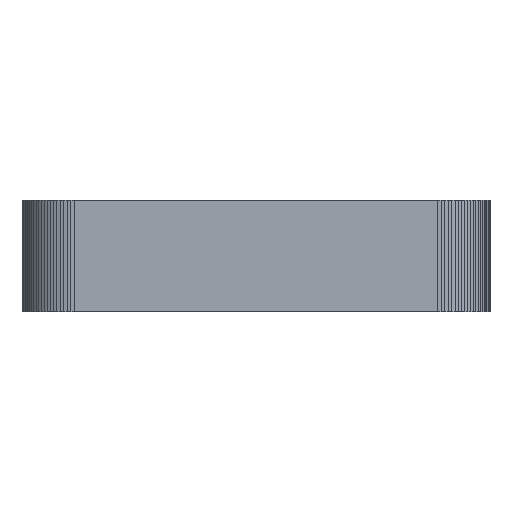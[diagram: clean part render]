
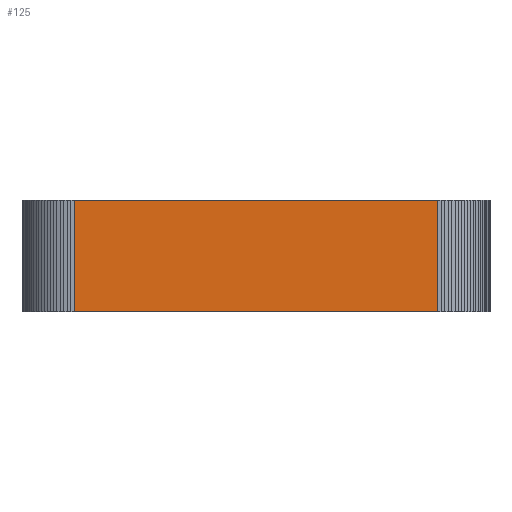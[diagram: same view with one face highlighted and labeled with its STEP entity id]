
A CAD part, front view. The second image highlights one B-rep face of the part: STEP entity #125.
In plain terms, the highlighted free-form (B-spline) face has degree [1, 1] with [2, 2] control points.
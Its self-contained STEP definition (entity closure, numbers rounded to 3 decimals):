
#21 = EDGE_CURVE('',#22,#24,#26,.T.);
#22 = VERTEX_POINT('',#23);
#23 = CARTESIAN_POINT('',(2.,-101.75,0.));
#24 = VERTEX_POINT('',#25);
#25 = CARTESIAN_POINT('',(2.,-101.75,8.)
  );
#26 = SURFACE_CURVE('',#27,(#30,#41),.PCURVE_S1.);
#27 = B_SPLINE_CURVE_WITH_KNOTS('',1,(#28,#29),.UNSPECIFIED.,.F.,.F.,(2,
    2),(0.,314.961),.PIECEWISE_BEZIER_KNOTS.);
#28 = CARTESIAN_POINT('',(2.,-101.75,0.));
#29 = CARTESIAN_POINT('',(2.,-101.75,8.)
  );
#30 = PCURVE('',#31,#36);
#31 = B_SPLINE_SURFACE_WITH_KNOTS('',1,1,(
    (#32,#33)
    ,(#34,#35
    )),.UNSPECIFIED.,.F.,.F.,.F.,(2,2),(2,2),(0.,10.081),(
    -314.961,0.),.PIECEWISE_BEZIER_KNOTS.);
#32 = CARTESIAN_POINT('',(2.,-101.75,8.)
  );
#33 = CARTESIAN_POINT('',(2.,-101.75,0.));
#34 = CARTESIAN_POINT('',(1.744,-101.741,8.));
#35 = CARTESIAN_POINT('',(1.744,-101.741,0.));
#36 = DEFINITIONAL_REPRESENTATION('',(#37),#40);
#37 = B_SPLINE_CURVE_WITH_KNOTS('',1,(#38,#39),.UNSPECIFIED.,.F.,.F.,(2,
    2),(0.,314.961),.PIECEWISE_BEZIER_KNOTS.);
#38 = CARTESIAN_POINT('',(0.,0.));
#39 = CARTESIAN_POINT('',(0.,-314.961));
#40 = ( GEOMETRIC_REPRESENTATION_CONTEXT(2) 
PARAMETRIC_REPRESENTATION_CONTEXT() REPRESENTATION_CONTEXT('2D SPACE',''
  ) );
#41 = PCURVE('',#42,#47);
#42 = B_SPLINE_SURFACE_WITH_KNOTS('',1,1,(
    (#43,#44)
    ,(#45,#46
  )),.UNSPECIFIED.,.F.,.F.,.F.,(2,2),(2,2),(0.,1023.622),(-314.961
    ,0.),.PIECEWISE_BEZIER_KNOTS.);
#43 = CARTESIAN_POINT('',(28.,-101.75,8.)
  );
#44 = CARTESIAN_POINT('',(28.,-101.75,0.));
#45 = CARTESIAN_POINT('',(2.,-101.75,8.)
  );
#46 = CARTESIAN_POINT('',(2.,-101.75,0.));
#47 = DEFINITIONAL_REPRESENTATION('',(#48),#51);
#48 = B_SPLINE_CURVE_WITH_KNOTS('',1,(#49,#50),.UNSPECIFIED.,.F.,.F.,(2,
    2),(0.,314.961),.PIECEWISE_BEZIER_KNOTS.);
#49 = CARTESIAN_POINT('',(1023.622,0.));
#50 = CARTESIAN_POINT('',(1023.622,-314.961));
#51 = ( GEOMETRIC_REPRESENTATION_CONTEXT(2) 
PARAMETRIC_REPRESENTATION_CONTEXT() REPRESENTATION_CONTEXT('2D SPACE',''
  ) );
#67 = B_SPLINE_SURFACE_WITH_KNOTS('',1,1,(
    (#68,#69)
    ,(#70,#71
    )),.UNSPECIFIED.,.F.,.F.,.F.,(2,2),(2,2),(-659.449,659.449),(
    -2037.402,2037.402),.PIECEWISE_BEZIER_KNOTS.);
#68 = CARTESIAN_POINT('',(31.75,-101.75,8.)
  );
#69 = CARTESIAN_POINT('',(31.75,1.75,8.));
#70 = CARTESIAN_POINT('',(-1.75,-101.75,8.)
  );
#71 = CARTESIAN_POINT('',(-1.75,1.75,8.)
  );
#115 = B_SPLINE_SURFACE_WITH_KNOTS('',1,1,(
    (#116,#117)
    ,(#118,#119
    )),.UNSPECIFIED.,.F.,.F.,.F.,(2,2),(2,2),(-659.449,659.449),(
    -2037.402,2037.402),.PIECEWISE_BEZIER_KNOTS.);
#116 = CARTESIAN_POINT('',(31.75,-101.75,0.));
#117 = CARTESIAN_POINT('',(31.75,1.75,0.));
#118 = CARTESIAN_POINT('',(-1.75,-101.75,0.));
#119 = CARTESIAN_POINT('',(-1.75,1.75,0.));
#125 = ADVANCED_FACE('',(#126),#42,.T.);
#126 = FACE_BOUND('',#127,.T.);
#127 = EDGE_LOOP('',(#128,#155,#173,#174));
#128 = ORIENTED_EDGE('',*,*,#129,.T.);
#129 = EDGE_CURVE('',#130,#132,#134,.T.);
#130 = VERTEX_POINT('',#131);
#131 = CARTESIAN_POINT('',(28.,-101.75,0.));
#132 = VERTEX_POINT('',#133);
#133 = CARTESIAN_POINT('',(28.,-101.75,8.
    ));
#134 = SURFACE_CURVE('',#135,(#138,#144),.PCURVE_S1.);
#135 = B_SPLINE_CURVE_WITH_KNOTS('',1,(#136,#137),.UNSPECIFIED.,.F.,.F.,
  (2,2),(0.,314.961),.PIECEWISE_BEZIER_KNOTS.);
#136 = CARTESIAN_POINT('',(28.,-101.75,0.));
#137 = CARTESIAN_POINT('',(28.,-101.75,8.
    ));
#138 = PCURVE('',#42,#139);
#139 = DEFINITIONAL_REPRESENTATION('',(#140),#143);
#140 = B_SPLINE_CURVE_WITH_KNOTS('',1,(#141,#142),.UNSPECIFIED.,.F.,.F.,
  (2,2),(0.,314.961),.PIECEWISE_BEZIER_KNOTS.);
#141 = CARTESIAN_POINT('',(0.,0.));
#142 = CARTESIAN_POINT('',(0.,-314.961));
#143 = ( GEOMETRIC_REPRESENTATION_CONTEXT(2) 
PARAMETRIC_REPRESENTATION_CONTEXT() REPRESENTATION_CONTEXT('2D SPACE',''
  ) );
#144 = PCURVE('',#145,#150);
#145 = B_SPLINE_SURFACE_WITH_KNOTS('',1,1,(
    (#146,#147)
    ,(#148,#149
    )),.UNSPECIFIED.,.F.,.F.,.F.,(2,2),(2,2),(0.,10.081),(
    -314.961,0.),.PIECEWISE_BEZIER_KNOTS.);
#146 = CARTESIAN_POINT('',(28.256,-101.741,8.)
  );
#147 = CARTESIAN_POINT('',(28.256,-101.741,0.));
#148 = CARTESIAN_POINT('',(28.,-101.75,8.
    ));
#149 = CARTESIAN_POINT('',(28.,-101.75,0.));
#150 = DEFINITIONAL_REPRESENTATION('',(#151),#154);
#151 = B_SPLINE_CURVE_WITH_KNOTS('',1,(#152,#153),.UNSPECIFIED.,.F.,.F.,
  (2,2),(0.,314.961),.PIECEWISE_BEZIER_KNOTS.);
#152 = CARTESIAN_POINT('',(10.081,0.));
#153 = CARTESIAN_POINT('',(10.081,-314.961));
#154 = ( GEOMETRIC_REPRESENTATION_CONTEXT(2) 
PARAMETRIC_REPRESENTATION_CONTEXT() REPRESENTATION_CONTEXT('2D SPACE',''
  ) );
#155 = ORIENTED_EDGE('',*,*,#156,.T.);
#156 = EDGE_CURVE('',#132,#24,#157,.T.);
#157 = SURFACE_CURVE('',#158,(#161,#167),.PCURVE_S1.);
#158 = B_SPLINE_CURVE_WITH_KNOTS('',1,(#159,#160),.UNSPECIFIED.,.F.,.F.,
  (2,2),(0.,1023.622),.PIECEWISE_BEZIER_KNOTS.);
#159 = CARTESIAN_POINT('',(28.,-101.75,8.
    ));
#160 = CARTESIAN_POINT('',(2.,-101.75,8.)
  );
#161 = PCURVE('',#42,#162);
#162 = DEFINITIONAL_REPRESENTATION('',(#163),#166);
#163 = B_SPLINE_CURVE_WITH_KNOTS('',1,(#164,#165),.UNSPECIFIED.,.F.,.F.,
  (2,2),(0.,1023.622),.PIECEWISE_BEZIER_KNOTS.);
#164 = CARTESIAN_POINT('',(0.,-314.961));
#165 = CARTESIAN_POINT('',(1023.622,-314.961));
#166 = ( GEOMETRIC_REPRESENTATION_CONTEXT(2) 
PARAMETRIC_REPRESENTATION_CONTEXT() REPRESENTATION_CONTEXT('2D SPACE',''
  ) );
#167 = PCURVE('',#67,#168);
#168 = DEFINITIONAL_REPRESENTATION('',(#169),#172);
#169 = B_SPLINE_CURVE_WITH_KNOTS('',1,(#170,#171),.UNSPECIFIED.,.F.,.F.,
  (2,2),(0.,1023.622),.PIECEWISE_BEZIER_KNOTS.);
#170 = CARTESIAN_POINT('',(-511.811,-2037.402));
#171 = CARTESIAN_POINT('',(511.811,-2037.402));
#172 = ( GEOMETRIC_REPRESENTATION_CONTEXT(2) 
PARAMETRIC_REPRESENTATION_CONTEXT() REPRESENTATION_CONTEXT('2D SPACE',''
  ) );
#173 = ORIENTED_EDGE('',*,*,#21,.F.);
#174 = ORIENTED_EDGE('',*,*,#175,.F.);
#175 = EDGE_CURVE('',#130,#22,#176,.T.);
#176 = SURFACE_CURVE('',#177,(#180,#186),.PCURVE_S1.);
#177 = B_SPLINE_CURVE_WITH_KNOTS('',1,(#178,#179),.UNSPECIFIED.,.F.,.F.,
  (2,2),(0.,1023.622),.PIECEWISE_BEZIER_KNOTS.);
#178 = CARTESIAN_POINT('',(28.,-101.75,0.));
#179 = CARTESIAN_POINT('',(2.,-101.75,0.));
#180 = PCURVE('',#42,#181);
#181 = DEFINITIONAL_REPRESENTATION('',(#182),#185);
#182 = B_SPLINE_CURVE_WITH_KNOTS('',1,(#183,#184),.UNSPECIFIED.,.F.,.F.,
  (2,2),(0.,1023.622),.PIECEWISE_BEZIER_KNOTS.);
#183 = CARTESIAN_POINT('',(0.,0.));
#184 = CARTESIAN_POINT('',(1023.622,0.));
#185 = ( GEOMETRIC_REPRESENTATION_CONTEXT(2) 
PARAMETRIC_REPRESENTATION_CONTEXT() REPRESENTATION_CONTEXT('2D SPACE',''
  ) );
#186 = PCURVE('',#115,#187);
#187 = DEFINITIONAL_REPRESENTATION('',(#188),#191);
#188 = B_SPLINE_CURVE_WITH_KNOTS('',1,(#189,#190),.UNSPECIFIED.,.F.,.F.,
  (2,2),(0.,1023.622),.PIECEWISE_BEZIER_KNOTS.);
#189 = CARTESIAN_POINT('',(-511.811,-2037.402));
#190 = CARTESIAN_POINT('',(511.811,-2037.402));
#191 = ( GEOMETRIC_REPRESENTATION_CONTEXT(2) 
PARAMETRIC_REPRESENTATION_CONTEXT() REPRESENTATION_CONTEXT('2D SPACE',''
  ) );
